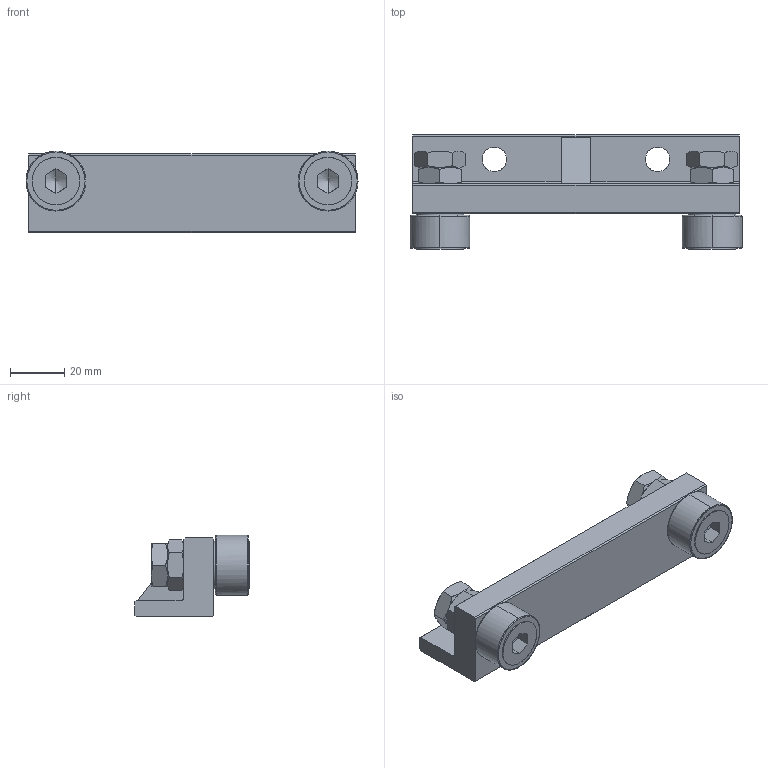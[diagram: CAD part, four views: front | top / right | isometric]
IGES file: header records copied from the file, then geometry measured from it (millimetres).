
Global section: file name: No Iges File Name specified; native system: AutoDesk Inventor R10; preprocessor: AutoDesk Inventor Iges Exporter R10; author: No Author specified; organization: No Organization specified; date: 20101225.153418; units: millimetre
Bounding box: 122 x 42 x 30 mm (x, y, z)
Surface area: 18920.1 mm2 (no closed solid volume)
Topology: 0 solids, 0 shells, 164 faces, 844 edges, 840 vertices
Faces by surface type: bspline 164
